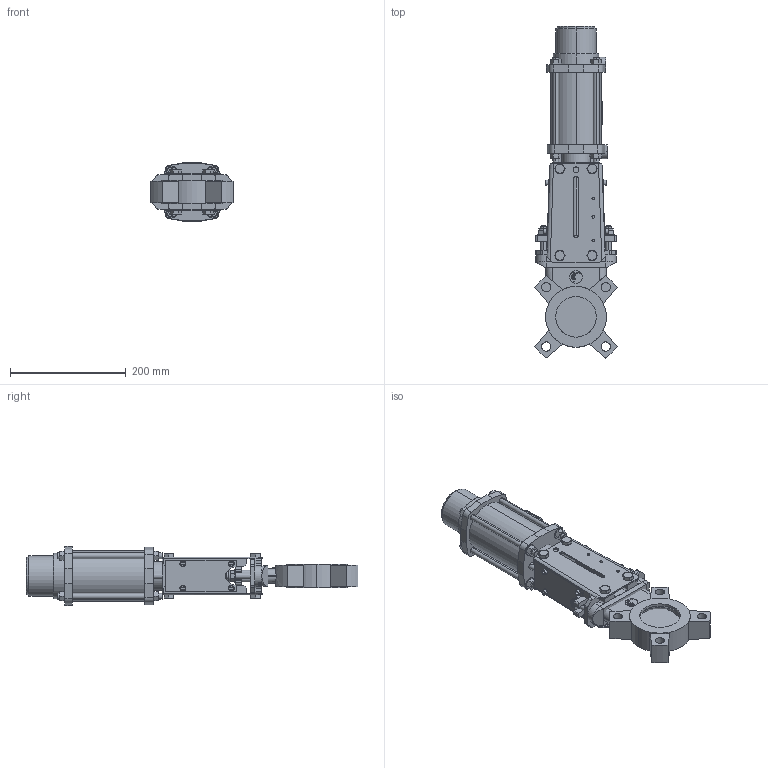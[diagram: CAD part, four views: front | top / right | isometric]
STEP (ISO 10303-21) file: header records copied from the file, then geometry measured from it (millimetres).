
FILE_DESCRIPTION (( 'STEP AP203' ), '1' );
FILE_NAME ('VG P N DN65.STEP', '2010-03-31T03:06:17', ( 'farex' ), ( '' ), 'SwSTEP 2.0', 'SolidWorks 2009', '' );
FILE_SCHEMA (( 'CONFIG_CONTROL_DESIGN' ));
Length unit declared in the file: millimetre
Products named in the file (1): VG P N DN65
Bounding box: 141.95 x 573.47 x 102 mm (x, y, z)
Volume: 1511422.5 mm3; surface area: 443982.3 mm2
Topology: 6 solids, 14 shells, 1079 faces, 2726 edges, 1785 vertices
Faces by surface type: plane 554, cylinder 341, cone 131, bspline 47, torus 6
Entity records: 38775 total; most frequent: CARTESIAN_POINT 12799, ORIENTED_EDGE 5452, DIRECTION 5229, EDGE_CURVE 2726, AXIS2_PLACEMENT_3D 1890, VERTEX_POINT 1785, VECTOR 1449, LINE 1449
